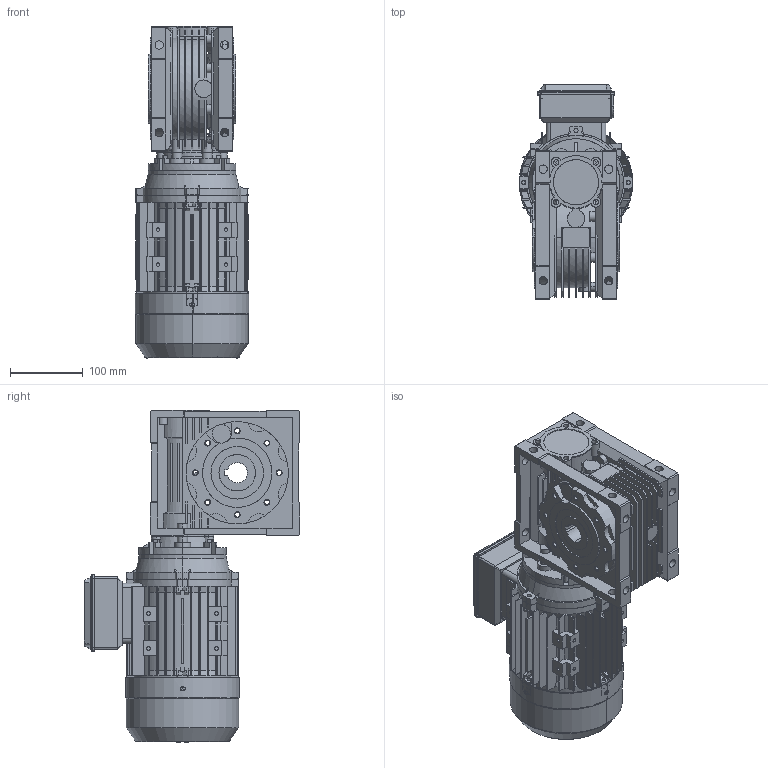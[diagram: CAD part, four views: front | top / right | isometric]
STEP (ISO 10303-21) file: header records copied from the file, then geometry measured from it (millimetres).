
FILE_DESCRIPTION (( 'STEP AP203' ), '1' );
FILE_NAME ('CMRV075_MX801.STEP', '2020-07-30T08:14:36', ( '' ), ( '' ), 'SwSTEP 2.0', 'SolidWorks 2012', '' );
FILE_SCHEMA (( 'CONFIG_CONTROL_DESIGN' ));
Products named in the file (10): CMRV075_MX801; CMRV075_B08; MX801_B14; L圩terfl夙el_MS80; L¦fterhaube_MS80; Klemmenkastendeckel_MS80_1; Klemmenkastenunterteil_MS80_1; B-Lagerschild_MS80_1; Geh§use_MS80; B14-Flansch_MS80
Assembly tree (9 placements, depth 3):
  CMRV075_MX801
    MX801_B14
      Geh§use_MS80
      B14-Flansch_MS80
      Klemmenkastenunterteil_MS80_1
      Klemmenkastendeckel_MS80_1
      B-Lagerschild_MS80_1
      L¦fterhaube_MS80
      L圩terfl夙el_MS80
    CMRV075_B08
Bounding box: 156 x 296 x 455 mm (x, y, z)
Volume: 936760 mm3; surface area: 995991.3 mm2
Topology: 7 solids, 18 shells, 3169 faces, 9047 edges, 5991 vertices
Faces by surface type: plane 2006, cylinder 851, cone 171, bspline 141
Entity records: 120609 total; most frequent: CARTESIAN_POINT 37613, ORIENTED_EDGE 17536, DIRECTION 15898, EDGE_CURVE 9034, VECTOR 6100, LINE 6100, VERTEX_POINT 5991, AXIS2_PLACEMENT_3D 4899
